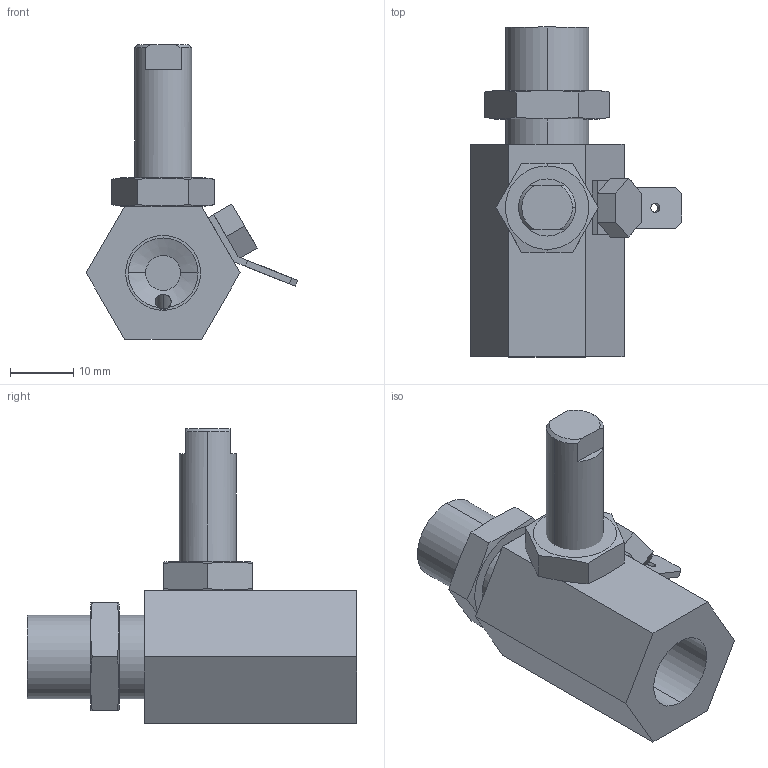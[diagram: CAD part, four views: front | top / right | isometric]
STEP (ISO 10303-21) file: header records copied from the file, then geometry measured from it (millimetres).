
FILE_DESCRIPTION (( 'STEP AP203' ), '1' );
FILE_NAME ('2EJR21L1412000A.STEP', '2017-04-20T10:26:41', ( 'FMI' ), ( 'Hewlett-Packard Company' ), 'SwSTEP 2.0', 'SolidWorks 2010', '' );
FILE_SCHEMA (( 'CONFIG_CONTROL_DESIGN' ));
Length unit declared in the file: millimetre
Products named in the file (7): 2EJR21L1412000A; Corps 2EJR21_...Avec prise vacuostatique; Mélangeur 2EJR21_S095111; F64.D250.14; F64.D250.18; F82.534929; C29_Vis H acier ZB CL8.8_vis H M 5x  8 
Assembly tree (6 placements, depth 2):
  2EJR21L1412000A
    C29_Vis H acier ZB CL8.8_vis H M 5x  8 
    F82.534929
    F64.D250.18
    F64.D250.14
    Mélangeur 2EJR21_S095111
    Corps 2EJR21_...Avec prise vacuostatique
Bounding box: 33.35 x 52 x 46.5 mm (x, y, z)
Volume: 15298.7 mm3; surface area: 8523.8 mm2
Topology: 6 solids, 6 shells, 121 faces, 294 edges, 190 vertices
Faces by surface type: plane 62, cylinder 36, cone 23
Entity records: 4510 total; most frequent: CARTESIAN_POINT 920, DIRECTION 599, ORIENTED_EDGE 584, EDGE_CURVE 292, AXIS2_PLACEMENT_3D 223, VERTEX_POINT 190, LINE 153, VECTOR 153
